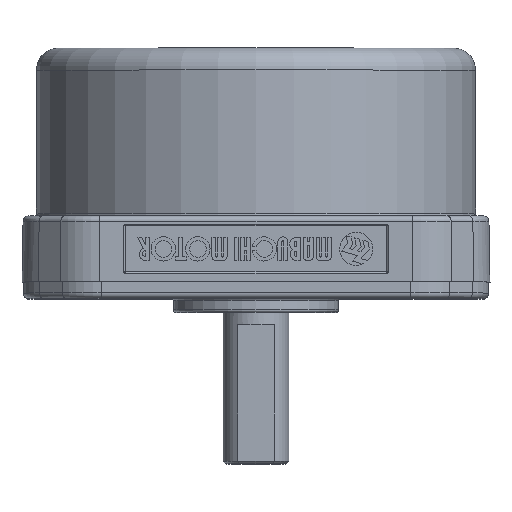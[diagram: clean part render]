
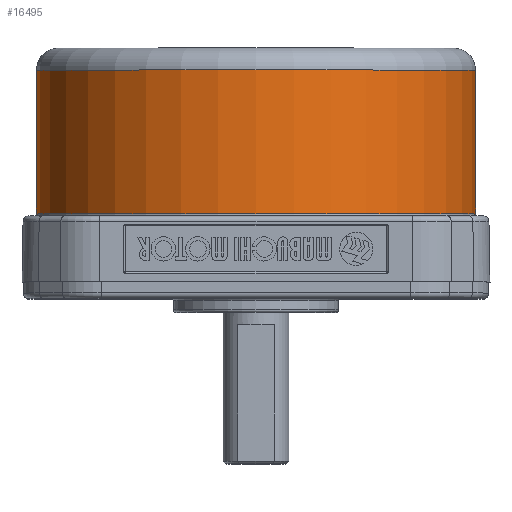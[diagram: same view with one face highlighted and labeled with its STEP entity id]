
A CAD part, top view. The second image highlights one B-rep face of the part: STEP entity #16495.
In plain terms, the highlighted cylindrical face has radius 39.9 mm (diameter 79.8 mm), a full revolution.
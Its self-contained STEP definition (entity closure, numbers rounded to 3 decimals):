
#10999=FACE_BOUND('',#19465,.T.);
#11000=FACE_BOUND('',#19466,.T.);
#12089=CYLINDRICAL_SURFACE('',#35548,39.9);
#16495=ADVANCED_FACE('',(#10999,#11000),#12089,.T.);
#19465=EDGE_LOOP('',(#25093));
#19466=EDGE_LOOP('',(#25094));
#21033=CIRCLE('',#35545,39.9);
#21034=CIRCLE('',#35547,39.9);
#25093=ORIENTED_EDGE('',*,*,#32500,.T.);
#25094=ORIENTED_EDGE('',*,*,#32499,.T.);
#29812=VERTEX_POINT('',#49680);
#29813=VERTEX_POINT('',#49683);
#32499=EDGE_CURVE('',#29812,#29812,#21033,.T.);
#32500=EDGE_CURVE('',#29813,#29813,#21034,.T.);
#35545=AXIS2_PLACEMENT_3D('',#49679,#40262,#40263);
#35547=AXIS2_PLACEMENT_3D('',#49682,#40266,#40267);
#35548=AXIS2_PLACEMENT_3D('',#49684,#40268,#40269);
#40262=DIRECTION('',(0.,1.,0.));
#40263=DIRECTION('',(0.,0.,1.));
#40266=DIRECTION('',(0.,-1.,0.));
#40267=DIRECTION('',(0.,0.,-1.));
#40268=DIRECTION('',(0.,1.,0.));
#40269=DIRECTION('',(0.,0.,-1.));
#49679=CARTESIAN_POINT('',(0.,-23.1,0.));
#49680=CARTESIAN_POINT('',(0.,-23.1,39.9));
#49682=CARTESIAN_POINT('',(0.,3.,0.));
#49683=CARTESIAN_POINT('',(0.,3.,-39.9));
#49684=CARTESIAN_POINT('',(0.,-23.5,0.));
